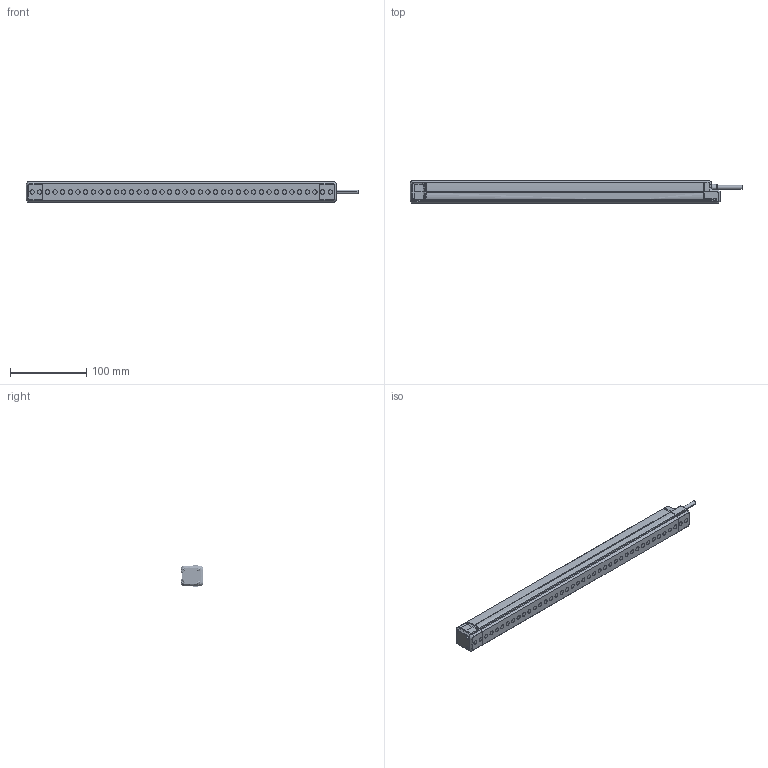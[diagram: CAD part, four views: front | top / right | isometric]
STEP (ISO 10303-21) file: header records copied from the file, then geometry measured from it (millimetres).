
FILE_DESCRIPTION((''),'2;1');
FILE_NAME('EFP-4010_ASM','2022-12-27T15:53:30',('18720616900'),(''),'CREO PARAMETRIC BY PTC INC, 2019010','CREO PARAMETRIC BY PTC INC, 2019010','');
FILE_SCHEMA(('CONFIG_CONTROL_DESIGN'));
Products named in the file (9): EFP-3-_A; EFP-3-_AF; EFP2-0; M26-14; M26-30; _0002; _0001_ASM; EFP-4010_ASM
Assembly tree (14 placements, depth 3):
  EFP-4010_ASM
    EFP-3-_A
    EFP-3-_AF
    EFP-3-_AF
    EFP2-0
    M26-14  x2
    M26-30  x6
    _0001_ASM
      _0002
Bounding box: 434.4 x 30 x 28.01 mm (x, y, z)
Volume: 293898.6 mm3; surface area: 80390.9 mm2
Topology: 13 solids, 649 shells, 3034 faces, 9751 edges, 7437 vertices
Faces by surface type: bspline 1174, plane 741, cone 450, cylinder 442, extrusion 161, torus 60, revolution 4, sphere 2
Entity records: 141566 total; most frequent: CARTESIAN_POINT 81464, ORIENTED_EDGE 11956, DIRECTION 8993, EDGE_CURVE 7935, VERTEX_POINT 6316, VECTOR 4027, LINE 3866, B_SPLINE_CURVE_WITH_KNOTS 3082
